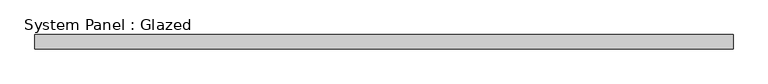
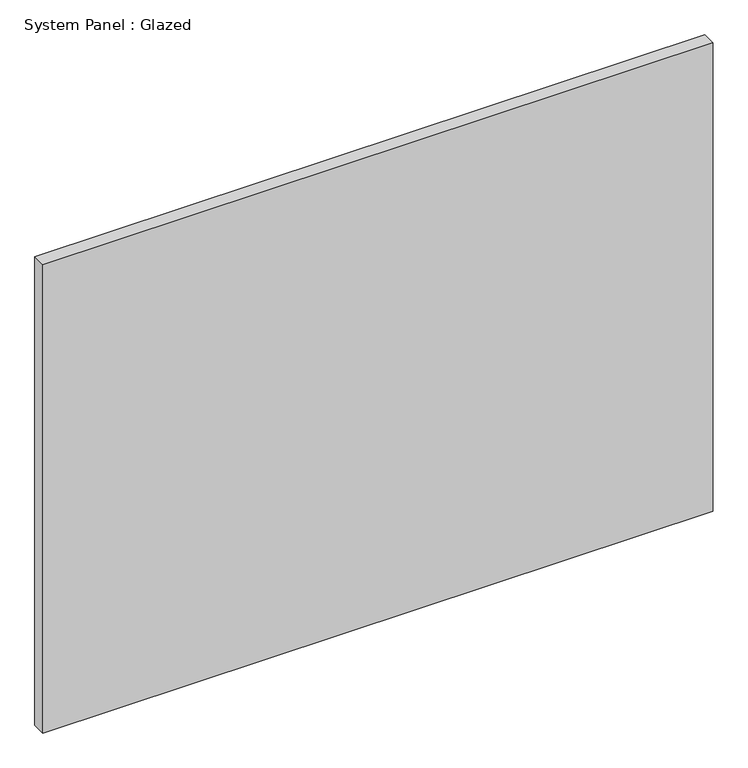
"""IFC4 building model written with IfcOpenShell, lengths in millimetres: plate geometry, System Panel : Glazed."""

from ifc_helpers import new_model, si_unit, origin, origin_with_axes, place, context, project, spatial, polyline, outline, extrude, source, transform, mapped, element, save


def system_panel_glazed_22a4ab8e(model_context):
    return source(origin(), model_context, "Body", "SweptSolid", [
        extrude(outline(polyline([(619.2304533, 19.05), (-619.2304533, 19.05), (-619.2304533, 44.45), (619.2304533, 44.45), (619.2304533, 19.05)])), origin_with_axes(), (0.0, 0.0, 1.0), 914.4),
    ])


if __name__ == "__main__":
    model = new_model("IFC4")
    model_context = context("Model", 3, world=origin())
    ifc_project = project(units=[si_unit("LENGTHUNIT", "METRE", prefix="MILLI")], contexts=[model_context])
    site = spatial("IfcSite", under=ifc_project)
    building = spatial("IfcBuilding", under=site)
    placement = place(None, origin())
    system_panel_glazed_shape = system_panel_glazed_22a4ab8e(model_context)
    element("IfcPlate", 1, ObjectType="System Panel : Glazed", at=placement, inside=building, context=model_context, shape_type="MappedRepresentation", body=[
        mapped(system_panel_glazed_shape, transform((0.0, 0.0, 0.0), x_axis=(1.0, 0.0, 0.0), y_axis=(0.0, 1.0, 0.0), z_axis=(0.0, 0.0, 1.0))),
    ])
    save(model, "model.ifc")
